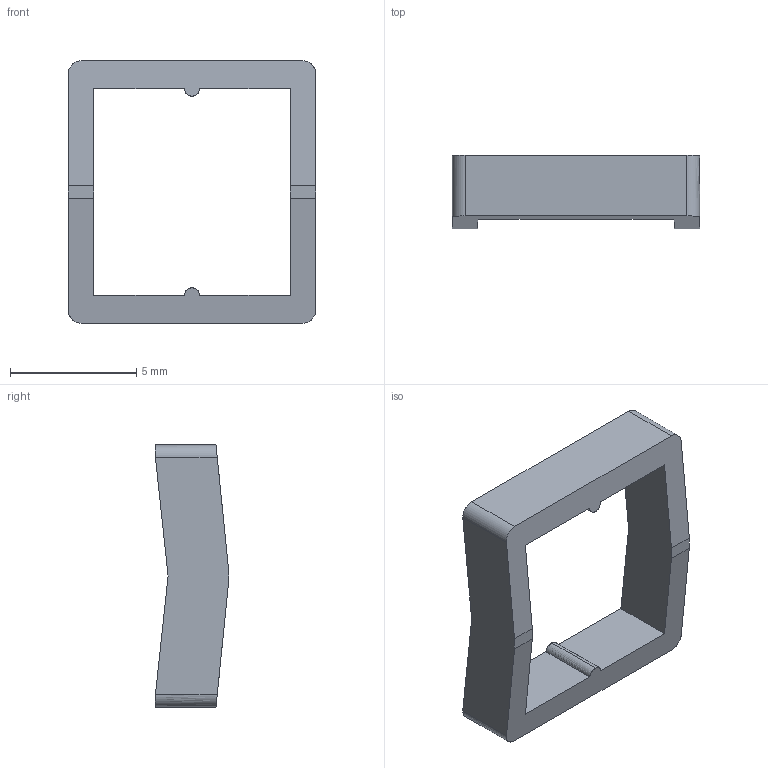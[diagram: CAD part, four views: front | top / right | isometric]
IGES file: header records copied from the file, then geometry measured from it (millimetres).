
Start section: SolidWorks IGES file using analytic representation for surfaces
Global section: file name: C:\Users\admin\Desktop\IGES\J2NE.igs; native system: SolidWorks 2014; preprocessor: SolidWorks 2014; author: admin_pc; date: 170524.165249; units: millimetre
Bounding box: 9.8 x 2.9 x 10.4 mm (x, y, z)
Surface area: 251.9 mm2 (no closed solid volume)
Topology: 0 solids, 0 shells, 25 faces, 210 edges, 210 vertices
Faces by surface type: bspline 18, revolution 7
